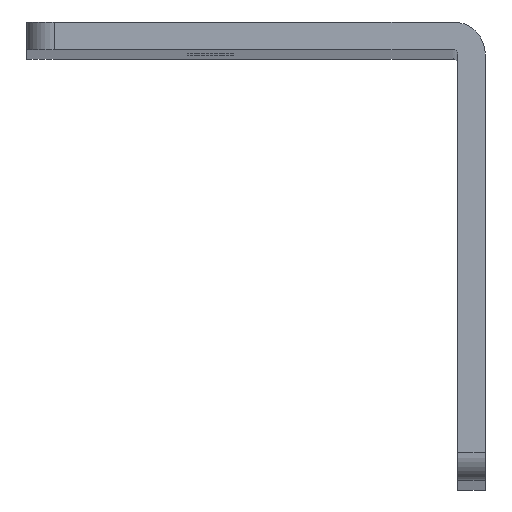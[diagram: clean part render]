
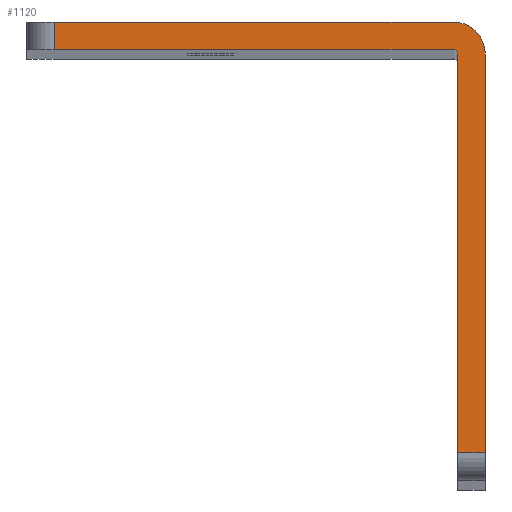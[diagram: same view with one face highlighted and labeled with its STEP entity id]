
A CAD part, top view. The second image highlights one B-rep face of the part: STEP entity #1120.
In plain terms, the highlighted planar face has unit normal (0, 0, 1).
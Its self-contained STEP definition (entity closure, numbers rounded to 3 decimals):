
#5 = EDGE_CURVE ( 'NONE', #1132, #694, #538, .T. ) ;
#12 = EDGE_CURVE ( 'NONE', #566, #614, #1087, .T. ) ;
#13 = ORIENTED_EDGE ( 'NONE', *, *, #97, .T. ) ;
#85 = CARTESIAN_POINT ( 'NONE',  ( -44., 0., 600. ) ) ;
#95 = CARTESIAN_POINT ( 'NONE',  ( -0.5, -0.5, 600. ) ) ;
#97 = EDGE_CURVE ( 'NONE', #1243, #694, #126, .T. ) ;
#113 = ORIENTED_EDGE ( 'NONE', *, *, #1281, .T. ) ;
#121 = DIRECTION ( 'NONE',  ( 1., 0., 0. ) ) ;
#126 = LINE ( 'NONE', #1135, #1054 ) ;
#138 = CARTESIAN_POINT ( 'NONE',  ( -0.5, -0.5, 600. ) ) ;
#152 = CARTESIAN_POINT ( 'NONE',  ( 0., -0.5, 600. ) ) ;
#202 = EDGE_CURVE ( 'NONE', #1076, #714, #839, .T. ) ;
#204 = DIRECTION ( 'NONE',  ( 0., 0., -1. ) ) ;
#230 = LINE ( 'NONE', #705, #1001 ) ;
#236 = VECTOR ( 'NONE', #752, 1000. ) ;
#288 = VECTOR ( 'NONE', #402, 1000. ) ;
#299 = LINE ( 'NONE', #1098, #236 ) ;
#333 = CIRCLE ( 'NONE', #450, 3.5 ) ;
#351 = CARTESIAN_POINT ( 'NONE',  ( -0.5, 0., 600. ) ) ;
#359 = DIRECTION ( 'NONE',  ( 1., 0., 0. ) ) ;
#370 = CARTESIAN_POINT ( 'NONE',  ( 3., -44., 600. ) ) ;
#390 = CARTESIAN_POINT ( 'NONE',  ( 0., -0.5, 600. ) ) ;
#402 = DIRECTION ( 'NONE',  ( 0., -1., 0. ) ) ;
#409 = DIRECTION ( 'NONE',  ( 0., -1., 0. ) ) ;
#428 = EDGE_LOOP ( 'NONE', ( #1108, #1213, #113, #704, #1107, #13, #1023, #702 ) ) ;
#450 = AXIS2_PLACEMENT_3D ( 'NONE', #902, #887, #121 ) ;
#493 = CARTESIAN_POINT ( 'NONE',  ( 0., -44., 600. ) ) ;
#538 = LINE ( 'NONE', #974, #885 ) ;
#560 = EDGE_CURVE ( 'NONE', #1194, #1132, #333, .T. ) ;
#566 = VERTEX_POINT ( 'NONE', #800 ) ;
#614 = VERTEX_POINT ( 'NONE', #85 ) ;
#639 = CARTESIAN_POINT ( 'NONE',  ( -44., -0.5, 600. ) ) ;
#694 = VERTEX_POINT ( 'NONE', #370 ) ;
#702 = ORIENTED_EDGE ( 'NONE', *, *, #560, .F. ) ;
#704 = ORIENTED_EDGE ( 'NONE', *, *, #202, .T. ) ;
#705 = CARTESIAN_POINT ( 'NONE',  ( -47., 3., 600. ) ) ;
#714 = VERTEX_POINT ( 'NONE', #152 ) ;
#736 = AXIS2_PLACEMENT_3D ( 'NONE', #138, #1398, #359 ) ;
#752 = DIRECTION ( 'NONE',  ( 1., 0., 0. ) ) ;
#785 = AXIS2_PLACEMENT_3D ( 'NONE', #95, #204, #1463 ) ;
#799 = DIRECTION ( 'NONE',  ( 1., 0., 0. ) ) ;
#800 = CARTESIAN_POINT ( 'NONE',  ( -44., 3., 600. ) ) ;
#806 = PLANE ( 'NONE',  #736 ) ;
#839 = CIRCLE ( 'NONE', #785, 0.5 ) ;
#885 = VECTOR ( 'NONE', #1233, 1000. ) ;
#887 = DIRECTION ( 'NONE',  ( 0., 0., -1. ) ) ;
#902 = CARTESIAN_POINT ( 'NONE',  ( -0.5, -0.5, 600. ) ) ;
#942 = FACE_OUTER_BOUND ( 'NONE', #428, .T. ) ;
#974 = CARTESIAN_POINT ( 'NONE',  ( 3., -0.5, 600. ) ) ;
#1001 = VECTOR ( 'NONE', #1040, 1000. ) ;
#1023 = ORIENTED_EDGE ( 'NONE', *, *, #5, .F. ) ;
#1040 = DIRECTION ( 'NONE',  ( 1., 0., 0. ) ) ;
#1054 = VECTOR ( 'NONE', #799, 1000. ) ;
#1076 = VERTEX_POINT ( 'NONE', #351 ) ;
#1087 = LINE ( 'NONE', #639, #288 ) ;
#1090 = EDGE_CURVE ( 'NONE', #566, #1194, #230, .T. ) ;
#1091 = LINE ( 'NONE', #390, #1449 ) ;
#1098 = CARTESIAN_POINT ( 'NONE',  ( -47., 0., 600. ) ) ;
#1107 = ORIENTED_EDGE ( 'NONE', *, *, #1232, .T. ) ;
#1108 = ORIENTED_EDGE ( 'NONE', *, *, #1090, .F. ) ;
#1120 = ADVANCED_FACE ( 'NONE', ( #942 ), #806, .T. ) ;
#1132 = VERTEX_POINT ( 'NONE', #1179 ) ;
#1135 = CARTESIAN_POINT ( 'NONE',  ( -0.5, -44., 600. ) ) ;
#1179 = CARTESIAN_POINT ( 'NONE',  ( 3., -0.5, 600. ) ) ;
#1194 = VERTEX_POINT ( 'NONE', #1402 ) ;
#1213 = ORIENTED_EDGE ( 'NONE', *, *, #12, .T. ) ;
#1232 = EDGE_CURVE ( 'NONE', #714, #1243, #1091, .T. ) ;
#1233 = DIRECTION ( 'NONE',  ( 0., -1., 0. ) ) ;
#1243 = VERTEX_POINT ( 'NONE', #493 ) ;
#1281 = EDGE_CURVE ( 'NONE', #614, #1076, #299, .T. ) ;
#1398 = DIRECTION ( 'NONE',  ( 0., 0., 1. ) ) ;
#1402 = CARTESIAN_POINT ( 'NONE',  ( -0.5, 3., 600. ) ) ;
#1449 = VECTOR ( 'NONE', #409, 1000. ) ;
#1463 = DIRECTION ( 'NONE',  ( -1., 0., 0. ) ) ;
